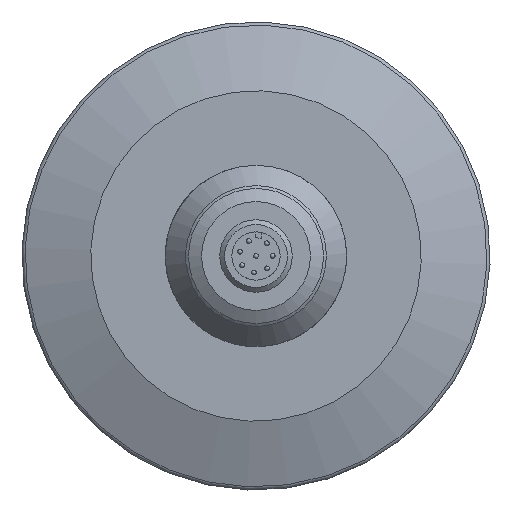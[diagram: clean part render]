
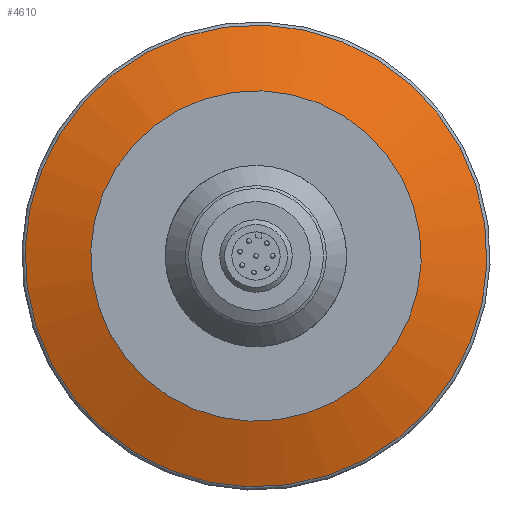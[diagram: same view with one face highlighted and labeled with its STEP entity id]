
A CAD part, front view. The second image highlights one B-rep face of the part: STEP entity #4610.
In plain terms, the highlighted conical face has half-angle 70 degrees and reference radius 38.224 mm.
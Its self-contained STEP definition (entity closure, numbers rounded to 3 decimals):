
#347=CONICAL_SURFACE('',#4806,38.224,1.222);
#1415=ORIENTED_EDGE('',*,*,#1962,.T.);
#1416=ORIENTED_EDGE('',*,*,#1963,.T.);
#1962=EDGE_CURVE('',#2306,#2306,#2418,.T.);
#1963=EDGE_CURVE('',#2307,#2307,#2419,.T.);
#2306=VERTEX_POINT('',#10033);
#2307=VERTEX_POINT('',#10036);
#2418=CIRCLE('',#4805,38.224);
#2419=CIRCLE('',#4807,27.348);
#2671=EDGE_LOOP('',(#1415));
#2672=EDGE_LOOP('',(#1416));
#2938=FACE_BOUND('',#2671,.T.);
#2939=FACE_BOUND('',#2672,.T.);
#4610=ADVANCED_FACE('',(#2938,#2939),#347,.T.);
#4805=AXIS2_PLACEMENT_3D('',#10032,#5292,#5293);
#4806=AXIS2_PLACEMENT_3D('',#10034,#5294,#5295);
#4807=AXIS2_PLACEMENT_3D('',#10035,#5296,#5297);
#5292=DIRECTION('',(0.,-1.,0.));
#5293=DIRECTION('',(0.99,0.,0.138));
#5294=DIRECTION('',(0.,1.,0.));
#5295=DIRECTION('',(0.99,0.,0.138));
#5296=DIRECTION('',(0.,1.,0.));
#5297=DIRECTION('',(0.99,0.,0.138));
#10032=CARTESIAN_POINT('',(0.,3.865,0.));
#10033=CARTESIAN_POINT('',(37.858,3.865,5.272));
#10034=CARTESIAN_POINT('',(0.,3.865,0.));
#10035=CARTESIAN_POINT('',(0.,-0.094,0.));
#10036=CARTESIAN_POINT('',(27.087,-0.094,3.772));
